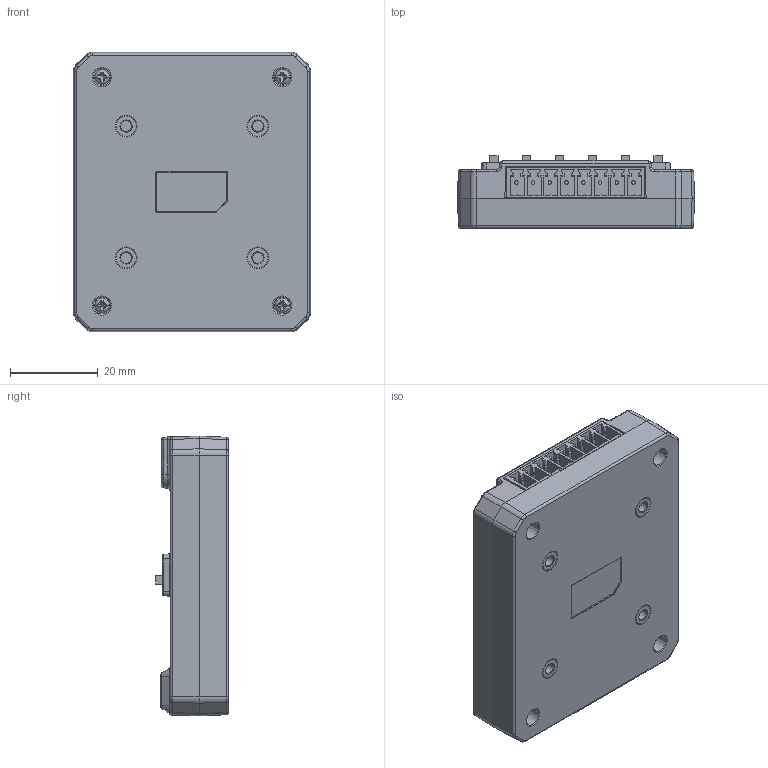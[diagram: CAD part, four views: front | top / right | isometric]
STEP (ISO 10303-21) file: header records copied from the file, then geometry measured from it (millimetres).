
FILE_DESCRIPTION((''),'2;1');
FILE_NAME('IOBOX-3333','2023-06-26T14:50:19',('lizhoupeng'),(''),'CREO PARAMETRIC BY PTC INC, 2020044','CREO PARAMETRIC BY PTC INC, 2020044','');
FILE_SCHEMA(('AUTOMOTIVE_DESIGN { 1 0 10303 214 1 1 1 1 }'));
Products named in the file (1): IOBOX-3333
Bounding box: 54 x 16.55 x 63.7 mm (x, y, z)
Volume: 32012.5 mm3; surface area: 31315.4 mm2
Topology: 1 solids, 16 shells, 2309 faces, 6216 edges, 3994 vertices
Faces by surface type: plane 1484, cylinder 454, cone 229, torus 109, bspline 28, sphere 5
Entity records: 84561 total; most frequent: CARTESIAN_POINT 16643, ORIENTED_EDGE 12406, DIRECTION 11754, EDGE_CURVE 6203, VECTOR 4298, LINE 4298, VERTEX_POINT 3994, AXIS2_PLACEMENT_3D 3728
